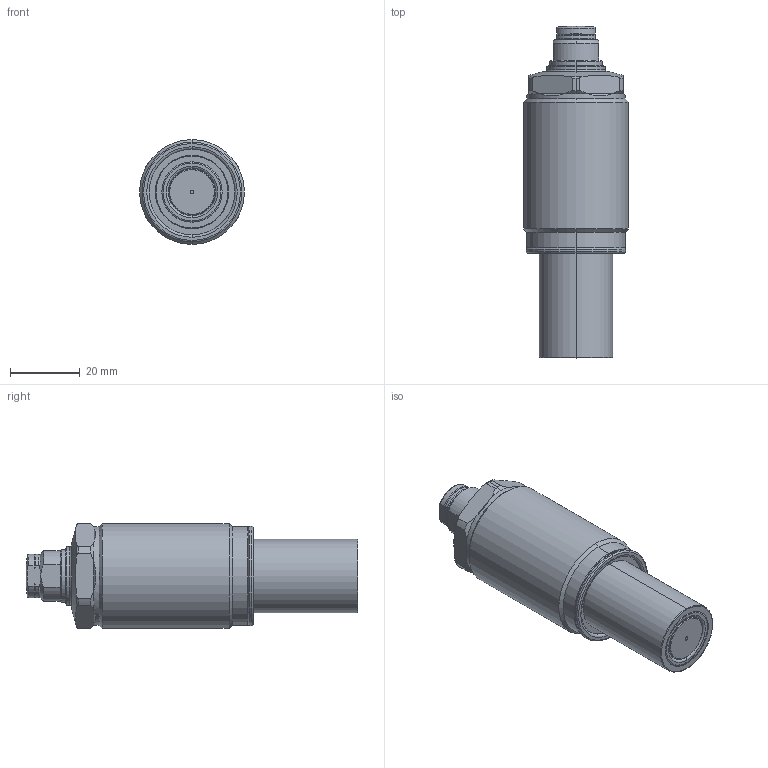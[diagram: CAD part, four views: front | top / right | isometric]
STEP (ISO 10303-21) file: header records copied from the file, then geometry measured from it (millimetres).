
FILE_DESCRIPTION(/* description */ (''),/* implementation_level */ '2;1');
FILE_NAME(/* name */ 'GSC03-Q.stp',/* time_stamp */ '2025-01-05T12:53:06+08:00',/* author */ (''),/* organization */ (''),/* preprocessor_version */ 'ST-DEVELOPER v16.7',/* originating_system */ 'SIEMENS PLM Software NX 12.0',/* authorisation */ '');
FILE_SCHEMA (('AUTOMOTIVE_DESIGN { 1 0 10303 214 3 1 1 1 }'));
Length unit declared in the file: millimetre
Products named in the file (8): TNC0403_ContactBolt_M10; AS010; GSC03-Q-05; GSC03-Q-04; GSC03-Q-03; GSC03-Q-02; GSC03-Q-01; TNC0603-Q_step
Assembly tree (7 placements, depth 3):
  TNC0603-Q_step
    GSC03-Q-01
      AS010
      TNC0403_ContactBolt_M10
    GSC03-Q-02
    GSC03-Q-03
    GSC03-Q-04
    GSC03-Q-05
Bounding box: 30 x 95 x 30 mm (x, y, z)
Volume: 47595.2 mm3; surface area: 12269.9 mm2
Topology: 6 solids, 6 shells, 173 faces, 384 edges, 231 vertices
Faces by surface type: cylinder 53, torus 49, plane 37, cone 32, sphere 2
Full cylindrical faces by diameter (mm): 28.2 x1, 30 x1
Entity records: 5353 total; most frequent: CARTESIAN_POINT 1228, DIRECTION 929, ORIENTED_EDGE 768, AXIS2_PLACEMENT_3D 416, EDGE_CURVE 384, VERTEX_POINT 233, CIRCLE 229, EDGE_LOOP 191
